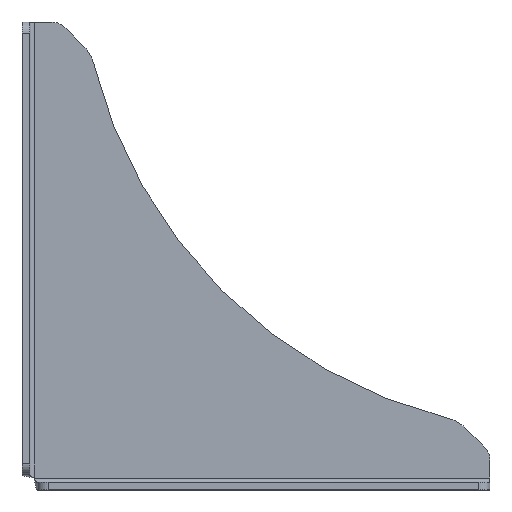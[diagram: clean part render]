
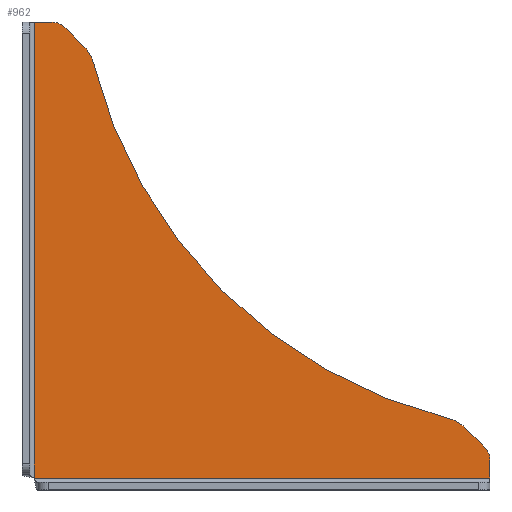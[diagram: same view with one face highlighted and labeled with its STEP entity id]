
A CAD part, top view. The second image highlights one B-rep face of the part: STEP entity #962.
In plain terms, the highlighted planar face has unit normal (0, 0, 1).
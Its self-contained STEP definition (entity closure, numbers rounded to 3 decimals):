
#30 = CARTESIAN_POINT ( 'NONE',  ( 111.419, 9.439, 0. ) ) ;
#41 = CIRCLE ( 'NONE', #1129, 10. ) ;
#43 = DIRECTION ( 'NONE',  ( 0., 1., 0. ) ) ;
#71 = EDGE_CURVE ( 'NONE', #1050, #1385, #41, .T. ) ;
#74 = ORIENTED_EDGE ( 'NONE', *, *, #1499, .T. ) ;
#79 = LINE ( 'NONE', #224, #432 ) ;
#106 = VECTOR ( 'NONE', #987, 1000. ) ;
#140 = VECTOR ( 'NONE', #597, 1000. ) ;
#141 = CARTESIAN_POINT ( 'NONE',  ( 125., 10., 0. ) ) ;
#154 = EDGE_CURVE ( 'NONE', #1301, #1400, #650, .T. ) ;
#169 = ORIENTED_EDGE ( 'NONE', *, *, #154, .T. ) ;
#184 = AXIS2_PLACEMENT_3D ( 'NONE', #30, #877, #1236 ) ;
#190 = ORIENTED_EDGE ( 'NONE', *, *, #1336, .T. ) ;
#201 = DIRECTION ( 'NONE',  ( 0., 0., 1. ) ) ;
#219 = VECTOR ( 'NONE', #1401, 1000. ) ;
#224 = CARTESIAN_POINT ( 'NONE',  ( 10., 125., 0. ) ) ;
#242 = CARTESIAN_POINT ( 'NONE',  ( 120., 7.929, 0. ) ) ;
#321 = VECTOR ( 'NONE', #43, 1000. ) ;
#322 = VECTOR ( 'NONE', #606, 1000. ) ;
#336 = AXIS2_PLACEMENT_3D ( 'NONE', #242, #201, #468 ) ;
#372 = DIRECTION ( 'NONE',  ( -1., 0., 0. ) ) ;
#376 = ORIENTED_EDGE ( 'NONE', *, *, #918, .T. ) ;
#389 = CARTESIAN_POINT ( 'NONE',  ( 125., 3.2, 0. ) ) ;
#416 = VERTEX_POINT ( 'NONE', #439 ) ;
#427 = EDGE_LOOP ( 'NONE', ( #494, #376, #888, #1471, #1404, #74, #1287, #1432, #698, #169, #190 ) ) ;
#432 = VECTOR ( 'NONE', #1065, 1000. ) ;
#439 = CARTESIAN_POINT ( 'NONE',  ( 113.838, 19.142, 0. ) ) ;
#468 = DIRECTION ( 'NONE',  ( -1., 0., 0. ) ) ;
#469 = EDGE_CURVE ( 'NONE', #581, #1093, #1150, .T. ) ;
#476 = AXIS2_PLACEMENT_3D ( 'NONE', #1461, #770, #372 ) ;
#494 = ORIENTED_EDGE ( 'NONE', *, *, #758, .T. ) ;
#545 = EDGE_CURVE ( 'NONE', #1385, #1371, #79, .T. ) ;
#575 = VERTEX_POINT ( 'NONE', #1058 ) ;
#581 = VERTEX_POINT ( 'NONE', #835 ) ;
#585 = CARTESIAN_POINT ( 'NONE',  ( 118.49, 16.51, 0. ) ) ;
#597 = DIRECTION ( 'NONE',  ( -0.707, 0.707, 0. ) ) ;
#605 = CARTESIAN_POINT ( 'NONE',  ( 9.439, 111.419, 0. ) ) ;
#606 = DIRECTION ( 'NONE',  ( -1., 0., 0. ) ) ;
#650 = LINE ( 'NONE', #141, #321 ) ;
#698 = ORIENTED_EDGE ( 'NONE', *, *, #1469, .F. ) ;
#705 = VERTEX_POINT ( 'NONE', #585 ) ;
#712 = FACE_OUTER_BOUND ( 'NONE', #427, .T. ) ;
#737 = CARTESIAN_POINT ( 'NONE',  ( 145.282, 145.282, 0. ) ) ;
#741 = EDGE_CURVE ( 'NONE', #1050, #416, #772, .T. ) ;
#746 = LINE ( 'NONE', #1162, #322 ) ;
#758 = EDGE_CURVE ( 'NONE', #575, #705, #791, .T. ) ;
#767 = LINE ( 'NONE', #389, #106 ) ;
#770 = DIRECTION ( 'NONE',  ( 0., 0., 1. ) ) ;
#772 = CIRCLE ( 'NONE', #1035, 130. ) ;
#791 = LINE ( 'NONE', #1534, #140 ) ;
#835 = CARTESIAN_POINT ( 'NONE',  ( 3.2, 3.2, 0. ) ) ;
#850 = CIRCLE ( 'NONE', #476, 5. ) ;
#858 = CIRCLE ( 'NONE', #336, 5. ) ;
#859 = DIRECTION ( 'NONE',  ( -1., 0., 0. ) ) ;
#877 = DIRECTION ( 'NONE',  ( 0., 0., 1. ) ) ;
#888 = ORIENTED_EDGE ( 'NONE', *, *, #741, .F. ) ;
#898 = PLANE ( 'NONE',  #1380 ) ;
#918 = EDGE_CURVE ( 'NONE', #705, #416, #1248, .T. ) ;
#962 = ADVANCED_FACE ( 'NONE', ( #712 ), #898, .F. ) ;
#987 = DIRECTION ( 'NONE',  ( -1., 0., 0. ) ) ;
#1028 = VERTEX_POINT ( 'NONE', #1140 ) ;
#1035 = AXIS2_PLACEMENT_3D ( 'NONE', #737, #1429, #1426 ) ;
#1050 = VERTEX_POINT ( 'NONE', #1147 ) ;
#1058 = CARTESIAN_POINT ( 'NONE',  ( 123.536, 11.464, 0. ) ) ;
#1065 = DIRECTION ( 'NONE',  ( -0.707, 0.707, 0. ) ) ;
#1093 = VERTEX_POINT ( 'NONE', #1491 ) ;
#1129 = AXIS2_PLACEMENT_3D ( 'NONE', #605, #1442, #859 ) ;
#1140 = CARTESIAN_POINT ( 'NONE',  ( 7.929, 125., 0. ) ) ;
#1147 = CARTESIAN_POINT ( 'NONE',  ( 19.142, 113.838, 0. ) ) ;
#1150 = LINE ( 'NONE', #1288, #219 ) ;
#1162 = CARTESIAN_POINT ( 'NONE',  ( 0., 125., 0. ) ) ;
#1236 = DIRECTION ( 'NONE',  ( -1., 0., 0. ) ) ;
#1248 = CIRCLE ( 'NONE', #184, 10. ) ;
#1283 = CARTESIAN_POINT ( 'NONE',  ( 125., 7.929, 0. ) ) ;
#1287 = ORIENTED_EDGE ( 'NONE', *, *, #1394, .T. ) ;
#1288 = CARTESIAN_POINT ( 'NONE',  ( 3.2, 3.2, 0. ) ) ;
#1301 = VERTEX_POINT ( 'NONE', #1346 ) ;
#1336 = EDGE_CURVE ( 'NONE', #1400, #575, #858, .T. ) ;
#1346 = CARTESIAN_POINT ( 'NONE',  ( 125., 3.2, 0. ) ) ;
#1358 = DIRECTION ( 'NONE',  ( -1., 0., 0. ) ) ;
#1368 = DIRECTION ( 'NONE',  ( 0., 0., -1. ) ) ;
#1371 = VERTEX_POINT ( 'NONE', #1438 ) ;
#1380 = AXIS2_PLACEMENT_3D ( 'NONE', #1485, #1368, #1358 ) ;
#1385 = VERTEX_POINT ( 'NONE', #1537 ) ;
#1394 = EDGE_CURVE ( 'NONE', #1028, #1093, #746, .T. ) ;
#1400 = VERTEX_POINT ( 'NONE', #1283 ) ;
#1401 = DIRECTION ( 'NONE',  ( 0., 1., 0. ) ) ;
#1404 = ORIENTED_EDGE ( 'NONE', *, *, #545, .T. ) ;
#1426 = DIRECTION ( 'NONE',  ( 1., 0., 0. ) ) ;
#1429 = DIRECTION ( 'NONE',  ( 0., 0., 1. ) ) ;
#1432 = ORIENTED_EDGE ( 'NONE', *, *, #469, .F. ) ;
#1438 = CARTESIAN_POINT ( 'NONE',  ( 11.464, 123.536, 0. ) ) ;
#1442 = DIRECTION ( 'NONE',  ( 0., 0., 1. ) ) ;
#1461 = CARTESIAN_POINT ( 'NONE',  ( 7.929, 120., 0. ) ) ;
#1469 = EDGE_CURVE ( 'NONE', #1301, #581, #767, .T. ) ;
#1471 = ORIENTED_EDGE ( 'NONE', *, *, #71, .T. ) ;
#1485 = CARTESIAN_POINT ( 'NONE',  ( 0., 0., 0. ) ) ;
#1491 = CARTESIAN_POINT ( 'NONE',  ( 3.2, 125., 0. ) ) ;
#1499 = EDGE_CURVE ( 'NONE', #1371, #1028, #850, .T. ) ;
#1534 = CARTESIAN_POINT ( 'NONE',  ( 10., 125., 0. ) ) ;
#1537 = CARTESIAN_POINT ( 'NONE',  ( 16.51, 118.49, 0. ) ) ;
